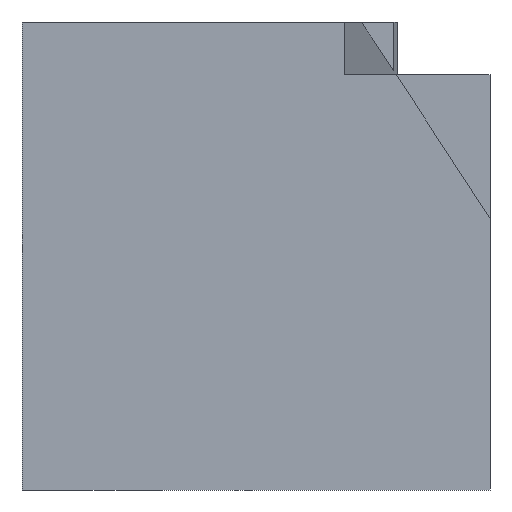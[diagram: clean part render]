
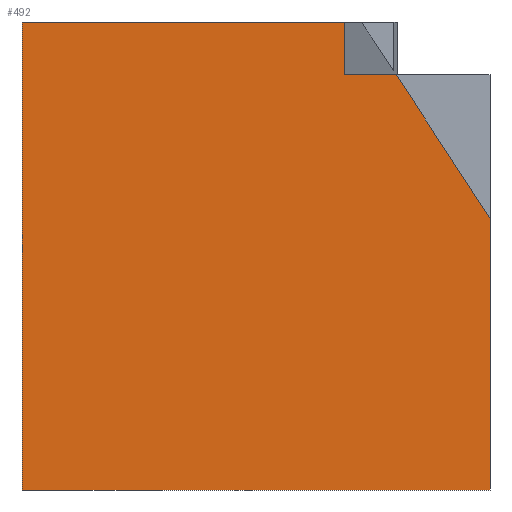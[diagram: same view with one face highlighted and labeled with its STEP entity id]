
A CAD part, front view. The second image highlights one B-rep face of the part: STEP entity #492.
In plain terms, the highlighted planar face has unit normal (0, -1, 0).
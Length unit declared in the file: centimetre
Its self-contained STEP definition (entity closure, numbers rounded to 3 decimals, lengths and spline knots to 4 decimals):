
#3 = DIRECTION ( 'NONE',  ( 0., 0., -1. ) ) ;
#10 = VECTOR ( 'NONE', #385, 100. ) ;
#21 = DIRECTION ( 'NONE',  ( 0., 1., 0. ) ) ;
#26 = DIRECTION ( 'NONE',  ( 0., 0., 1. ) ) ;
#31 = VERTEX_POINT ( 'NONE', #455 ) ;
#35 = ORIENTED_EDGE ( 'NONE', *, *, #450, .T. ) ;
#71 = CARTESIAN_POINT ( 'NONE',  ( 1000., 0., 0. ) ) ;
#75 = CARTESIAN_POINT ( 'NONE',  ( 688.3372, 0., 1000. ) ) ;
#83 = CARTESIAN_POINT ( 'NONE',  ( 1000., 0., 580.8346 ) ) ;
#105 = VERTEX_POINT ( 'NONE', #529 ) ;
#106 = CARTESIAN_POINT ( 'NONE',  ( 1000., 0., 1000. ) ) ;
#114 = PLANE ( 'NONE',  #670 ) ;
#124 = DIRECTION ( 'NONE',  ( 1., 0., 0. ) ) ;
#133 = CARTESIAN_POINT ( 'NONE',  ( 1000., 0., 580.8346 ) ) ;
#141 = EDGE_CURVE ( 'NONE', #31, #208, #541, .T. ) ;
#143 = VECTOR ( 'NONE', #326, 100. ) ;
#192 = LINE ( 'NONE', #83, #535 ) ;
#194 = VERTEX_POINT ( 'NONE', #71 ) ;
#208 = VERTEX_POINT ( 'NONE', #315 ) ;
#265 = LINE ( 'NONE', #375, #599 ) ;
#283 = DIRECTION ( 'NONE',  ( 0.547, 0., -0.837 ) ) ;
#286 = VECTOR ( 'NONE', #124, 100. ) ;
#291 = DIRECTION ( 'NONE',  ( 1., 0., 0. ) ) ;
#303 = EDGE_CURVE ( 'NONE', #105, #349, #265, .T. ) ;
#315 = CARTESIAN_POINT ( 'NONE',  ( 799.852, 0., 886.9143 ) ) ;
#326 = DIRECTION ( 'NONE',  ( 1., 0., 0. ) ) ;
#335 = EDGE_CURVE ( 'NONE', #460, #194, #486, .T. ) ;
#349 = VERTEX_POINT ( 'NONE', #391 ) ;
#352 = LINE ( 'NONE', #508, #559 ) ;
#358 = EDGE_LOOP ( 'NONE', ( #563, #383, #629, #577, #35, #516, #581 ) ) ;
#375 = CARTESIAN_POINT ( 'NONE',  ( 0., 0., 1000. ) ) ;
#383 = ORIENTED_EDGE ( 'NONE', *, *, #463, .T. ) ;
#385 = DIRECTION ( 'NONE',  ( 0., 0., -1. ) ) ;
#391 = CARTESIAN_POINT ( 'NONE',  ( 0., 0., 0. ) ) ;
#395 = LINE ( 'NONE', #494, #286 ) ;
#398 = EDGE_CURVE ( 'NONE', #208, #460, #192, .T. ) ;
#405 = CARTESIAN_POINT ( 'NONE',  ( 0., 0., 1000. ) ) ;
#418 = VERTEX_POINT ( 'NONE', #75 ) ;
#450 = EDGE_CURVE ( 'NONE', #349, #194, #395, .T. ) ;
#455 = CARTESIAN_POINT ( 'NONE',  ( 688.3372, 0., 886.9143 ) ) ;
#460 = VERTEX_POINT ( 'NONE', #133 ) ;
#463 = EDGE_CURVE ( 'NONE', #31, #418, #352, .T. ) ;
#486 = LINE ( 'NONE', #106, #10 ) ;
#492 = ADVANCED_FACE ( 'NONE', ( #630 ), #114, .F. ) ;
#494 = CARTESIAN_POINT ( 'NONE',  ( 0., 0., 0. ) ) ;
#497 = VECTOR ( 'NONE', #291, 100. ) ;
#508 = CARTESIAN_POINT ( 'NONE',  ( 688.3372, 0., 886.9143 ) ) ;
#516 = ORIENTED_EDGE ( 'NONE', *, *, #335, .F. ) ;
#529 = CARTESIAN_POINT ( 'NONE',  ( 0., 0., 1000. ) ) ;
#533 = DIRECTION ( 'NONE',  ( 0., 0., 1. ) ) ;
#535 = VECTOR ( 'NONE', #283, 100. ) ;
#541 = LINE ( 'NONE', #580, #143 ) ;
#559 = VECTOR ( 'NONE', #26, 100. ) ;
#563 = ORIENTED_EDGE ( 'NONE', *, *, #141, .F. ) ;
#577 = ORIENTED_EDGE ( 'NONE', *, *, #303, .T. ) ;
#580 = CARTESIAN_POINT ( 'NONE',  ( 688.3372, 0., 886.9143 ) ) ;
#581 = ORIENTED_EDGE ( 'NONE', *, *, #398, .F. ) ;
#586 = LINE ( 'NONE', #405, #497 ) ;
#599 = VECTOR ( 'NONE', #3, 100. ) ;
#614 = EDGE_CURVE ( 'NONE', #105, #418, #586, .T. ) ;
#624 = CARTESIAN_POINT ( 'NONE',  ( 0., 0., 1000. ) ) ;
#629 = ORIENTED_EDGE ( 'NONE', *, *, #614, .F. ) ;
#630 = FACE_OUTER_BOUND ( 'NONE', #358, .T. ) ;
#670 = AXIS2_PLACEMENT_3D ( 'NONE', #624, #21, #533 ) ;
